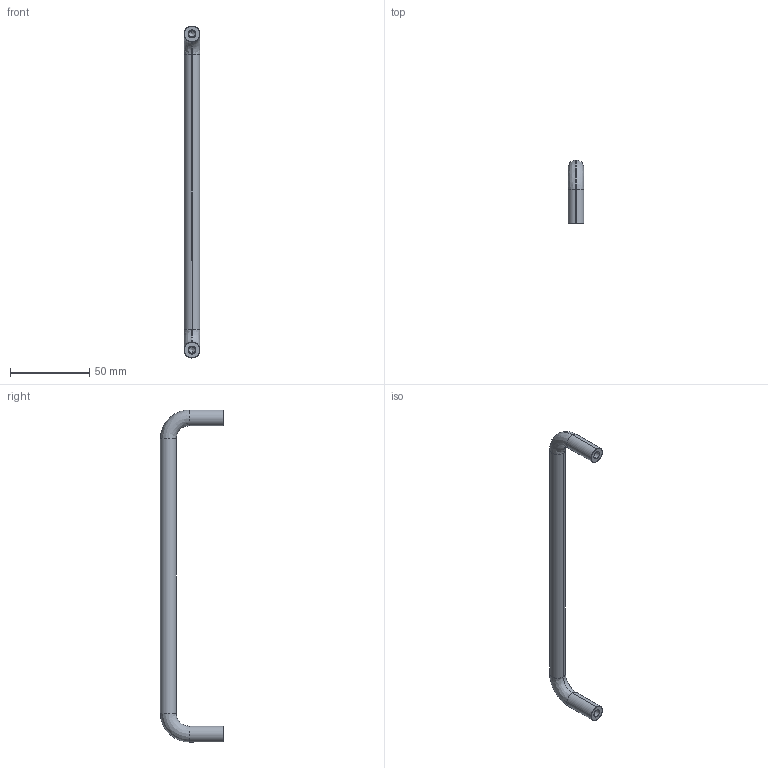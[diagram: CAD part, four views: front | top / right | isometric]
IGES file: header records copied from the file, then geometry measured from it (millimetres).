
Start section: SolidWorks IGES file using analytic representation for surfaces
Global section: file name: C:\Users\IanO\Desktop\Temp File\Process pending\79840_v2\79840_v2_20171115_IGES\79840.W0020.igs; native system: SolidWorks 2017; preprocessor: SolidWorks 2017; author: IanO; date: 171115.103727; units: millimetre
Bounding box: 10 x 40 x 210 mm (x, y, z)
Surface area: 8633.3 mm2 (no closed solid volume)
Topology: 0 solids, 0 shells, 26 faces, 344 edges, 340 vertices
Faces by surface type: revolution 18, bspline 8
